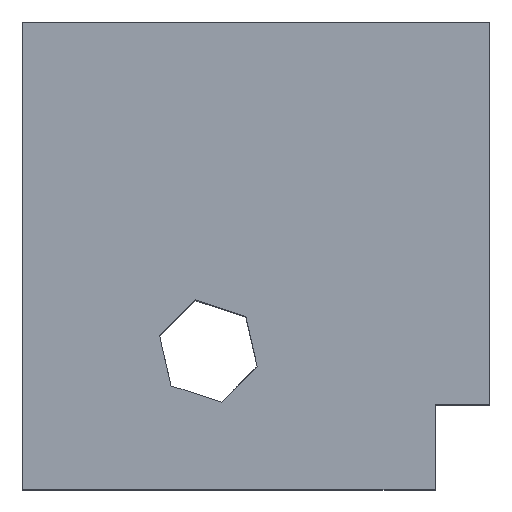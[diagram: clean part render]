
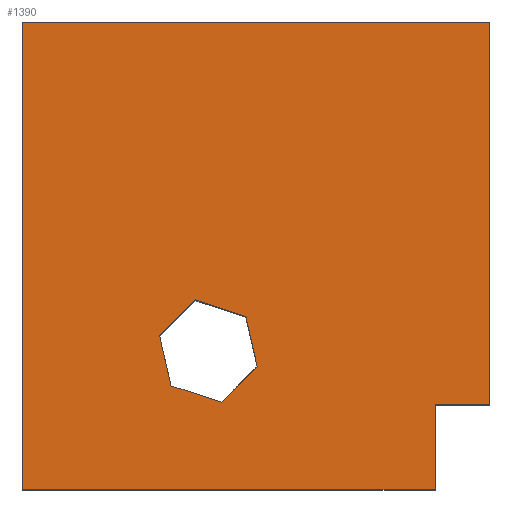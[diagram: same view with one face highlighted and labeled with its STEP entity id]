
A CAD part, top view. The second image highlights one B-rep face of the part: STEP entity #1390.
In plain terms, the highlighted planar face has unit normal (0, 0, 1).
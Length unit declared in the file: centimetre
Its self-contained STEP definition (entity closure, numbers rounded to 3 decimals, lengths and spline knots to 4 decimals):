
#31 = EDGE_CURVE ( 'NONE', #2381, #3218, #1994, .T. ) ;
#99 = EDGE_LOOP ( 'NONE', ( #2904, #2080, #839, #686, #835, #2914 ) ) ;
#107 = DIRECTION ( 'NONE',  ( 1., 0., 0. ) ) ;
#245 = LINE ( 'NONE', #1296, #1961 ) ;
#302 = CARTESIAN_POINT ( 'NONE',  ( 318.0057, 221.5078, 1000. ) ) ;
#337 = AXIS2_PLACEMENT_3D ( 'NONE', #841, #2878, #107 ) ;
#345 = LINE ( 'NONE', #1360, #1880 ) ;
#356 = VERTEX_POINT ( 'NONE', #2951 ) ;
#370 = CARTESIAN_POINT ( 'NONE',  ( 0., 1000., 1000. ) ) ;
#379 = LINE ( 'NONE', #1379, #792 ) ;
#387 = CARTESIAN_POINT ( 'NONE',  ( 883.3282, 181.429, 1000. ) ) ;
#611 = CARTESIAN_POINT ( 'NONE',  ( 425.2692, 186.3224, 1000. ) ) ;
#620 = VERTEX_POINT ( 'NONE', #3124 ) ;
#632 = VERTEX_POINT ( 'NONE', #611 ) ;
#650 = VECTOR ( 'NONE', #1691, 100. ) ;
#666 = EDGE_CURVE ( 'NONE', #1153, #620, #345, .T. ) ;
#686 = ORIENTED_EDGE ( 'NONE', *, *, #2079, .T. ) ;
#746 = CARTESIAN_POINT ( 'NONE',  ( 502.4297, 263.4828, 1000. ) ) ;
#792 = VECTOR ( 'NONE', #2403, 100. ) ;
#803 = CARTESIAN_POINT ( 'NONE',  ( 883.3282, 0., 1000. ) ) ;
#818 = LINE ( 'NONE', #2315, #2301 ) ;
#835 = ORIENTED_EDGE ( 'NONE', *, *, #3208, .T. ) ;
#839 = ORIENTED_EDGE ( 'NONE', *, *, #2204, .T. ) ;
#841 = CARTESIAN_POINT ( 'NONE',  ( 0., 0., 1000. ) ) ;
#899 = VECTOR ( 'NONE', #2853, 100. ) ;
#971 = EDGE_CURVE ( 'NONE', #632, #2484, #3222, .T. ) ;
#1014 = ORIENTED_EDGE ( 'NONE', *, *, #31, .T. ) ;
#1116 = DIRECTION ( 'NONE',  ( 0.707, 0.707, 0. ) ) ;
#1149 = ORIENTED_EDGE ( 'NONE', *, *, #2161, .T. ) ;
#1153 = VERTEX_POINT ( 'NONE', #3008 ) ;
#1195 = CARTESIAN_POINT ( 'NONE',  ( 425.2692, 186.3224, 1000. ) ) ;
#1239 = CARTESIAN_POINT ( 'NONE',  ( 478.1954, 369.9601, 1000. ) ) ;
#1241 = DIRECTION ( 'NONE',  ( 0., 1., 0. ) ) ;
#1274 = VECTOR ( 'NONE', #2076, 100. ) ;
#1296 = CARTESIAN_POINT ( 'NONE',  ( 0., 1000., 1000. ) ) ;
#1321 = CARTESIAN_POINT ( 'NONE',  ( 478.1954, 369.9601, 1000. ) ) ;
#1358 = FACE_OUTER_BOUND ( 'NONE', #1838, .T. ) ;
#1360 = CARTESIAN_POINT ( 'NONE',  ( 293.7714, 327.985, 1000. ) ) ;
#1371 = FACE_BOUND ( 'NONE', #99, .T. ) ;
#1379 = CARTESIAN_POINT ( 'NONE',  ( 0., 0., 1000. ) ) ;
#1390 = ADVANCED_FACE ( 'NONE', ( #1358, #1371 ), #2369, .T. ) ;
#1492 = CARTESIAN_POINT ( 'NONE',  ( 1000., 1000., 1000. ) ) ;
#1554 = ORIENTED_EDGE ( 'NONE', *, *, #2916, .T. ) ;
#1588 = LINE ( 'NONE', #3119, #1274 ) ;
#1664 = EDGE_CURVE ( 'NONE', #1915, #2381, #1779, .T. ) ;
#1691 = DIRECTION ( 'NONE',  ( -0.95, 0.312, 0. ) ) ;
#1709 = EDGE_CURVE ( 'NONE', #2484, #1153, #1588, .T. ) ;
#1729 = DIRECTION ( 'NONE',  ( -0.707, -0.707, 0. ) ) ;
#1751 = DIRECTION ( 'NONE',  ( -1., 0., 0. ) ) ;
#1769 = VECTOR ( 'NONE', #1241, 100. ) ;
#1779 = LINE ( 'NONE', #3285, #2501 ) ;
#1780 = VERTEX_POINT ( 'NONE', #1321 ) ;
#1792 = VERTEX_POINT ( 'NONE', #3136 ) ;
#1837 = DIRECTION ( 'NONE',  ( 0.95, -0.312, 0. ) ) ;
#1838 = EDGE_LOOP ( 'NONE', ( #1149, #2177, #1014, #1554, #2727, #2716 ) ) ;
#1852 = LINE ( 'NONE', #803, #899 ) ;
#1880 = VECTOR ( 'NONE', #1116, 100. ) ;
#1901 = CARTESIAN_POINT ( 'NONE',  ( 883.3282, 0., 1000. ) ) ;
#1907 = VECTOR ( 'NONE', #2991, 100. ) ;
#1912 = EDGE_CURVE ( 'NONE', #356, #3297, #2669, .T. ) ;
#1915 = VERTEX_POINT ( 'NONE', #387 ) ;
#1916 = CARTESIAN_POINT ( 'NONE',  ( 0., 0., 1000. ) ) ;
#1922 = DIRECTION ( 'NONE',  ( 0., -1., 0. ) ) ;
#1961 = VECTOR ( 'NONE', #1751, 100. ) ;
#1985 = VERTEX_POINT ( 'NONE', #1901 ) ;
#1994 = LINE ( 'NONE', #3284, #1769 ) ;
#2024 = LINE ( 'NONE', #1239, #1907 ) ;
#2076 = DIRECTION ( 'NONE',  ( -0.222, 0.975, 0. ) ) ;
#2079 = EDGE_CURVE ( 'NONE', #1780, #1792, #2024, .T. ) ;
#2080 = ORIENTED_EDGE ( 'NONE', *, *, #666, .T. ) ;
#2155 = LINE ( 'NONE', #746, #2706 ) ;
#2161 = EDGE_CURVE ( 'NONE', #1985, #1915, #1852, .T. ) ;
#2177 = ORIENTED_EDGE ( 'NONE', *, *, #1664, .T. ) ;
#2204 = EDGE_CURVE ( 'NONE', #620, #1780, #818, .T. ) ;
#2301 = VECTOR ( 'NONE', #1837, 100. ) ;
#2315 = CARTESIAN_POINT ( 'NONE',  ( 370.9319, 405.1455, 1000. ) ) ;
#2363 = CARTESIAN_POINT ( 'NONE',  ( 1000., 181.429, 1000. ) ) ;
#2369 = PLANE ( 'NONE',  #337 ) ;
#2381 = VERTEX_POINT ( 'NONE', #2363 ) ;
#2403 = DIRECTION ( 'NONE',  ( 1., 0., 0. ) ) ;
#2484 = VERTEX_POINT ( 'NONE', #302 ) ;
#2501 = VECTOR ( 'NONE', #2760, 100. ) ;
#2669 = LINE ( 'NONE', #370, #3082 ) ;
#2674 = EDGE_CURVE ( 'NONE', #3297, #1985, #379, .T. ) ;
#2706 = VECTOR ( 'NONE', #1729, 100. ) ;
#2716 = ORIENTED_EDGE ( 'NONE', *, *, #2674, .T. ) ;
#2727 = ORIENTED_EDGE ( 'NONE', *, *, #1912, .T. ) ;
#2760 = DIRECTION ( 'NONE',  ( 1., 0., 0. ) ) ;
#2853 = DIRECTION ( 'NONE',  ( 0., 1., 0. ) ) ;
#2878 = DIRECTION ( 'NONE',  ( 0., 0., 1. ) ) ;
#2904 = ORIENTED_EDGE ( 'NONE', *, *, #1709, .T. ) ;
#2914 = ORIENTED_EDGE ( 'NONE', *, *, #971, .T. ) ;
#2916 = EDGE_CURVE ( 'NONE', #3218, #356, #245, .T. ) ;
#2951 = CARTESIAN_POINT ( 'NONE',  ( 0., 1000., 1000. ) ) ;
#2991 = DIRECTION ( 'NONE',  ( 0.222, -0.975, 0. ) ) ;
#3008 = CARTESIAN_POINT ( 'NONE',  ( 293.7714, 327.985, 1000. ) ) ;
#3082 = VECTOR ( 'NONE', #1922, 100. ) ;
#3119 = CARTESIAN_POINT ( 'NONE',  ( 318.0057, 221.5078, 1000. ) ) ;
#3124 = CARTESIAN_POINT ( 'NONE',  ( 370.9319, 405.1455, 1000. ) ) ;
#3136 = CARTESIAN_POINT ( 'NONE',  ( 502.4297, 263.4828, 1000. ) ) ;
#3208 = EDGE_CURVE ( 'NONE', #1792, #632, #2155, .T. ) ;
#3218 = VERTEX_POINT ( 'NONE', #1492 ) ;
#3222 = LINE ( 'NONE', #1195, #650 ) ;
#3284 = CARTESIAN_POINT ( 'NONE',  ( 1000., 1000., 1000. ) ) ;
#3285 = CARTESIAN_POINT ( 'NONE',  ( 883.3282, 181.429, 1000. ) ) ;
#3297 = VERTEX_POINT ( 'NONE', #1916 ) ;
